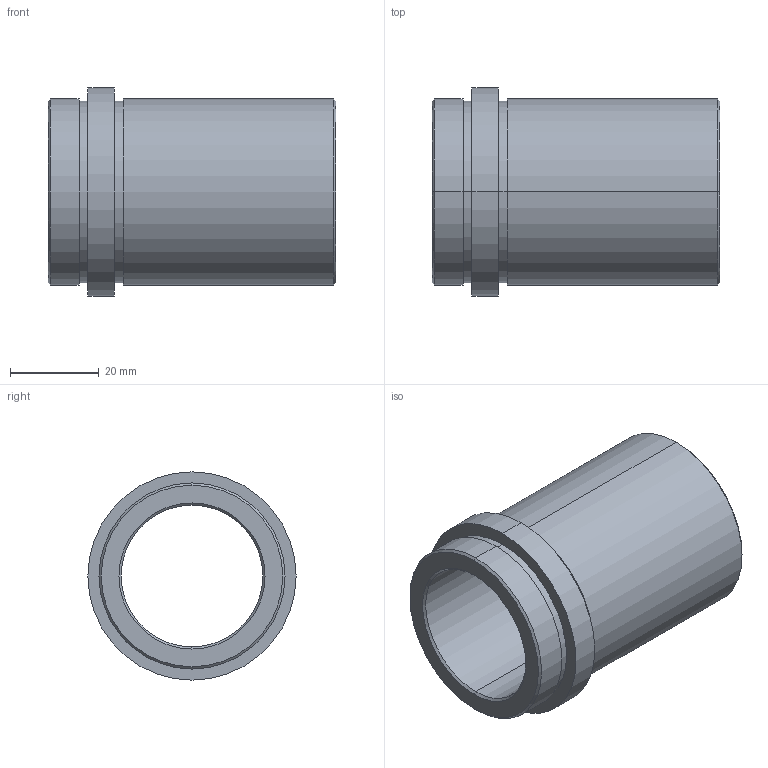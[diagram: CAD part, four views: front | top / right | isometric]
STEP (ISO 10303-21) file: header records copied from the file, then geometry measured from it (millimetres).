
FILE_DESCRIPTION (( 'STEP AP214' ), '1' );
FILE_NAME ('D21_32x56.step', '2011-12-29T18:59:32', ( 'Dell' ), ( '' ), 'SwSTEP 2.0', 'SolidWorks 2010', '' );
FILE_SCHEMA (( 'AUTOMOTIVE_DESIGN' ));
Length unit declared in the file: millimetre
Products named in the file (1): D21_32x56
Bounding box: 65 x 47 x 47 mm (x, y, z)
Volume: 39555.8 mm3; surface area: 17178.7 mm2
Topology: 1 solids, 1 shells, 26 faces, 52 edges, 32 vertices
Faces by surface type: cylinder 12, cone 8, plane 6
Entity records: 722 total; most frequent: DIRECTION 138, CARTESIAN_POINT 111, ORIENTED_EDGE 104, AXIS2_PLACEMENT_3D 59, EDGE_CURVE 52, CIRCLE 32, EDGE_LOOP 32, VERTEX_POINT 32
